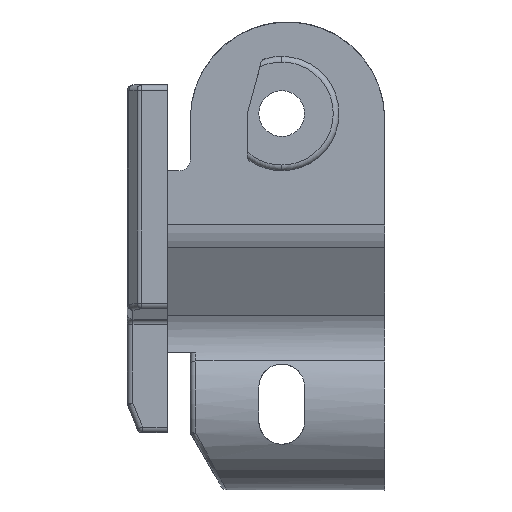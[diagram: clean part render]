
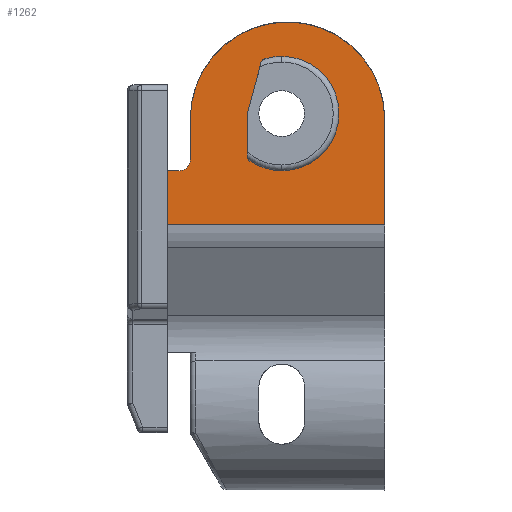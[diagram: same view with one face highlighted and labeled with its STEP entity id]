
A CAD part, left-side view. The second image highlights one B-rep face of the part: STEP entity #1262.
In plain terms, the highlighted planar face has unit normal (-1, 0, 0).
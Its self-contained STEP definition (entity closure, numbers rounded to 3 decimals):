
#521 = CARTESIAN_POINT ( 'NONE',  ( -10.4, -19., 12.2 ) ) ;
#560 = CARTESIAN_POINT ( 'NONE',  ( -10.4, -10., 17.7 ) ) ;
#646 = DIRECTION ( 'NONE',  ( 0., 0., 1. ) ) ;
#647 = AXIS2_PLACEMENT_3D ( 'NONE', #653, #665, #646 ) ;
#648 = CIRCLE ( 'NONE', #647, 5. ) ;
#652 = CARTESIAN_POINT ( 'NONE',  ( -10.4, -10.5, 20.7 ) ) ;
#653 = CARTESIAN_POINT ( 'NONE',  ( -10.4, -10., 12.7 ) ) ;
#655 = CARTESIAN_POINT ( 'NONE',  ( -10.4, -10., 7.7 ) ) ;
#665 = DIRECTION ( 'NONE',  ( -1., 0., 0. ) ) ;
#684 = CARTESIAN_POINT ( 'NONE',  ( -10.4, -8.522, 17.476 ) ) ;
#1232 = VERTEX_POINT ( 'NONE', #6231 ) ;
#1240 = EDGE_CURVE ( 'NONE', #1922, #1289, #6229, .T. ) ;
#1244 = EDGE_CURVE ( 'NONE', #1898, #1232, #6217, .T. ) ;
#1246 = ORIENTED_EDGE ( 'NONE', *, *, #1291, .F. ) ;
#1247 = VERTEX_POINT ( 'NONE', #6272 ) ;
#1249 = VERTEX_POINT ( 'NONE', #6222 ) ;
#1250 = ORIENTED_EDGE ( 'NONE', *, *, #1268, .T. ) ;
#1251 = EDGE_CURVE ( 'NONE', #1272, #1247, #6266, .T. ) ;
#1252 = VERTEX_POINT ( 'NONE', #6271 ) ;
#1253 = EDGE_CURVE ( 'NONE', #1287, #1249, #6267, .T. ) ;
#1254 = ORIENTED_EDGE ( 'NONE', *, *, #1273, .F. ) ;
#1256 = VERTEX_POINT ( 'NONE', #6255 ) ;
#1260 = VERTEX_POINT ( 'NONE', #6245 ) ;
#1261 = ORIENTED_EDGE ( 'NONE', *, *, #1295, .T. ) ;
#1262 = ADVANCED_FACE ( 'NONE', ( #6252, #6244 ), #6251, .F. ) ;
#1263 = EDGE_CURVE ( 'NONE', #1296, #1275, #6241, .T. ) ;
#1264 = EDGE_CURVE ( 'NONE', #1275, #1901, #6273, .T. ) ;
#1265 = EDGE_CURVE ( 'NONE', #1249, #1296, #6289, .T. ) ;
#1266 = ORIENTED_EDGE ( 'NONE', *, *, #1263, .F. ) ;
#1267 = EDGE_LOOP ( 'NONE', ( #1266, #1290, #1280, #1294, #1281, #1279, #1282, #1284 ) ) ;
#1268 = EDGE_CURVE ( 'NONE', #1232, #1272, #6290, .T. ) ;
#1269 = ORIENTED_EDGE ( 'NONE', *, *, #3619, .T. ) ;
#1270 = ORIENTED_EDGE ( 'NONE', *, *, #1251, .T. ) ;
#1271 = ORIENTED_EDGE ( 'NONE', *, *, #1244, .T. ) ;
#1272 = VERTEX_POINT ( 'NONE', #6293 ) ;
#1273 = EDGE_CURVE ( 'NONE', #1790, #1256, #6281, .T. ) ;
#1275 = VERTEX_POINT ( 'NONE', #6282 ) ;
#1276 = EDGE_LOOP ( 'NONE', ( #1254, #1269, #1271, #1250, #1270, #1261, #1283, #1246 ) ) ;
#1279 = ORIENTED_EDGE ( 'NONE', *, *, #1904, .F. ) ;
#1280 = ORIENTED_EDGE ( 'NONE', *, *, #1253, .F. ) ;
#1281 = ORIENTED_EDGE ( 'NONE', *, *, #1240, .F. ) ;
#1282 = ORIENTED_EDGE ( 'NONE', *, *, #1900, .F. ) ;
#1283 = ORIENTED_EDGE ( 'NONE', *, *, #1293, .T. ) ;
#1284 = ORIENTED_EDGE ( 'NONE', *, *, #1264, .F. ) ;
#1286 = EDGE_CURVE ( 'NONE', #1289, #1287, #6322, .T. ) ;
#1287 = VERTEX_POINT ( 'NONE', #6328 ) ;
#1289 = VERTEX_POINT ( 'NONE', #6324 ) ;
#1290 = ORIENTED_EDGE ( 'NONE', *, *, #1265, .F. ) ;
#1291 = EDGE_CURVE ( 'NONE', #1256, #1252, #6323, .T. ) ;
#1293 = EDGE_CURVE ( 'NONE', #1260, #1252, #6325, .T. ) ;
#1294 = ORIENTED_EDGE ( 'NONE', *, *, #1286, .F. ) ;
#1295 = EDGE_CURVE ( 'NONE', #1247, #1260, #6305, .T. ) ;
#1296 = VERTEX_POINT ( 'NONE', #6372 ) ;
#1790 = VERTEX_POINT ( 'NONE', #521 ) ;
#1898 = VERTEX_POINT ( 'NONE', #652 ) ;
#1900 = EDGE_CURVE ( 'NONE', #1901, #1906, #648, .T. ) ;
#1901 = VERTEX_POINT ( 'NONE', #655 ) ;
#1904 = EDGE_CURVE ( 'NONE', #1906, #1922, #7053, .T. ) ;
#1906 = VERTEX_POINT ( 'NONE', #560 ) ;
#1922 = VERTEX_POINT ( 'NONE', #684 ) ;
#2335 = DIRECTION ( 'NONE',  ( 0., 0., -1. ) ) ;
#2336 = DIRECTION ( 'NONE',  ( -1., 0., 0. ) ) ;
#2337 = CARTESIAN_POINT ( 'NONE',  ( -10.4, -10.5, 12.2 ) ) ;
#2338 = AXIS2_PLACEMENT_3D ( 'NONE', #2337, #2336, #2335 ) ;
#2360 = CIRCLE ( 'NONE', #2338, 8.5 ) ;
#3619 = EDGE_CURVE ( 'NONE', #1790, #1898, #2360, .T. ) ;
#6183 = AXIS2_PLACEMENT_3D ( 'NONE', #6230, #6216, #6215 ) ;
#6214 = AXIS2_PLACEMENT_3D ( 'NONE', #6270, #6269, #6268 ) ;
#6215 = DIRECTION ( 'NONE',  ( 0., 0., 1. ) ) ;
#6216 = DIRECTION ( 'NONE',  ( -1., 0., 0. ) ) ;
#6217 = CIRCLE ( 'NONE', #6214, 8.5 ) ;
#6222 = CARTESIAN_POINT ( 'NONE',  ( -10.4, -7., 12.634 ) ) ;
#6223 = CARTESIAN_POINT ( 'NONE',  ( -10.4, -1., 8.7 ) ) ;
#6229 = CIRCLE ( 'NONE', #6183, 0.5 ) ;
#6230 = CARTESIAN_POINT ( 'NONE',  ( -10.4, -8.67, 16.999 ) ) ;
#6231 = CARTESIAN_POINT ( 'NONE',  ( -10.4, -2., 12.2 ) ) ;
#6240 = CARTESIAN_POINT ( 'NONE',  ( -10.4, -10., 12.7 ) ) ;
#6241 = CIRCLE ( 'NONE', #6299, 0.5 ) ;
#6244 = FACE_BOUND ( 'NONE', #1267, .T. ) ;
#6245 = CARTESIAN_POINT ( 'NONE',  ( -10.4, 0., 7.7 ) ) ;
#6246 = AXIS2_PLACEMENT_3D ( 'NONE', #6256, #6298, #6297 ) ;
#6248 = AXIS2_PLACEMENT_3D ( 'NONE', #6240, #6292, #6291 ) ;
#6251 = PLANE ( 'NONE',  #6246 ) ;
#6252 = FACE_OUTER_BOUND ( 'NONE', #1276, .T. ) ;
#6253 = DIRECTION ( 'NONE',  ( 0., 0., 1. ) ) ;
#6254 = DIRECTION ( 'NONE',  ( -1., 0., 0. ) ) ;
#6255 = CARTESIAN_POINT ( 'NONE',  ( -10.4, -19., 2.961 ) ) ;
#6256 = CARTESIAN_POINT ( 'NONE',  ( -10.4, -19., 20.7 ) ) ;
#6261 = DIRECTION ( 'NONE',  ( 0., 0., -1. ) ) ;
#6262 = DIRECTION ( 'NONE',  ( 1., 0., 0. ) ) ;
#6263 = AXIS2_PLACEMENT_3D ( 'NONE', #6223, #6262, #6261 ) ;
#6264 = CARTESIAN_POINT ( 'NONE',  ( -10.4, -7.5, 12.634 ) ) ;
#6265 = AXIS2_PLACEMENT_3D ( 'NONE', #6264, #6254, #6253 ) ;
#6266 = CIRCLE ( 'NONE', #6263, 1. ) ;
#6267 = CIRCLE ( 'NONE', #6265, 0.5 ) ;
#6268 = DIRECTION ( 'NONE',  ( 0., 0., -1. ) ) ;
#6269 = DIRECTION ( 'NONE',  ( -1., 0., 0. ) ) ;
#6270 = CARTESIAN_POINT ( 'NONE',  ( -10.4, -10.5, 12.2 ) ) ;
#6271 = CARTESIAN_POINT ( 'NONE',  ( -10.4, 0., 2.961 ) ) ;
#6272 = CARTESIAN_POINT ( 'NONE',  ( -10.4, -1., 7.7 ) ) ;
#6273 = CIRCLE ( 'NONE', #6248, 5. ) ;
#6275 = DIRECTION ( 'NONE',  ( 0., 0., -1. ) ) ;
#6276 = VECTOR ( 'NONE', #6275, 1000. ) ;
#6277 = CARTESIAN_POINT ( 'NONE',  ( -10.4, -19., 20.7 ) ) ;
#6279 = DIRECTION ( 'NONE',  ( 0., 0., -1. ) ) ;
#6280 = VECTOR ( 'NONE', #6279, 1000. ) ;
#6281 = LINE ( 'NONE', #6277, #6276 ) ;
#6282 = CARTESIAN_POINT ( 'NONE',  ( -10.4, -7.222, 8.543 ) ) ;
#6283 = CARTESIAN_POINT ( 'NONE',  ( -10.4, -2., 20.7 ) ) ;
#6286 = DIRECTION ( 'NONE',  ( 0., 0., -1. ) ) ;
#6287 = VECTOR ( 'NONE', #6286, 1000. ) ;
#6288 = CARTESIAN_POINT ( 'NONE',  ( -10.4, -7., 8.958 ) ) ;
#6289 = LINE ( 'NONE', #6288, #6287 ) ;
#6290 = LINE ( 'NONE', #6283, #6280 ) ;
#6291 = DIRECTION ( 'NONE',  ( 0., 0., 1. ) ) ;
#6292 = DIRECTION ( 'NONE',  ( -1., 0., 0. ) ) ;
#6293 = CARTESIAN_POINT ( 'NONE',  ( -10.4, -2., 8.7 ) ) ;
#6294 = DIRECTION ( 'NONE',  ( 0., 0., 1. ) ) ;
#6295 = DIRECTION ( 'NONE',  ( -1., 0., 0. ) ) ;
#6296 = CARTESIAN_POINT ( 'NONE',  ( -10.4, -7.5, 8.958 ) ) ;
#6297 = DIRECTION ( 'NONE',  ( 0., 0., -1. ) ) ;
#6298 = DIRECTION ( 'NONE',  ( 1., 0., 0. ) ) ;
#6299 = AXIS2_PLACEMENT_3D ( 'NONE', #6296, #6295, #6294 ) ;
#6302 = DIRECTION ( 'NONE',  ( 0., 1., 0. ) ) ;
#6303 = VECTOR ( 'NONE', #6302, 1000. ) ;
#6304 = CARTESIAN_POINT ( 'NONE',  ( -10.4, -19., 7.7 ) ) ;
#6305 = LINE ( 'NONE', #6304, #6303 ) ;
#6308 = CARTESIAN_POINT ( 'NONE',  ( -10.4, -10., 12.7 ) ) ;
#6310 = DIRECTION ( 'NONE',  ( 0., 0., -1. ) ) ;
#6311 = VECTOR ( 'NONE', #6310, 1000. ) ;
#6312 = CARTESIAN_POINT ( 'NONE',  ( -10.4, 0., 20.7 ) ) ;
#6313 = DIRECTION ( 'NONE',  ( 0., 1., 0. ) ) ;
#6314 = VECTOR ( 'NONE', #6313, 1000. ) ;
#6319 = DIRECTION ( 'NONE',  ( 0., 0.259, -0.966 ) ) ;
#6320 = VECTOR ( 'NONE', #6319, 1000. ) ;
#6321 = CARTESIAN_POINT ( 'NONE',  ( -10.4, -7.017, 12.764 ) ) ;
#6322 = LINE ( 'NONE', #6321, #6320 ) ;
#6323 = LINE ( 'NONE', #6326, #6314 ) ;
#6324 = CARTESIAN_POINT ( 'NONE',  ( -10.4, -8.187, 17.128 ) ) ;
#6325 = LINE ( 'NONE', #6312, #6311 ) ;
#6326 = CARTESIAN_POINT ( 'NONE',  ( -10.4, -19., 2.961 ) ) ;
#6328 = CARTESIAN_POINT ( 'NONE',  ( -10.4, -7.017, 12.764 ) ) ;
#6372 = CARTESIAN_POINT ( 'NONE',  ( -10.4, -7., 8.958 ) ) ;
#6566 = AXIS2_PLACEMENT_3D ( 'NONE', #6308, #6803, #6822 ) ;
#6803 = DIRECTION ( 'NONE',  ( -1., 0., 0. ) ) ;
#6822 = DIRECTION ( 'NONE',  ( 0., 0., 1. ) ) ;
#7053 = CIRCLE ( 'NONE', #6566, 5. ) ;
